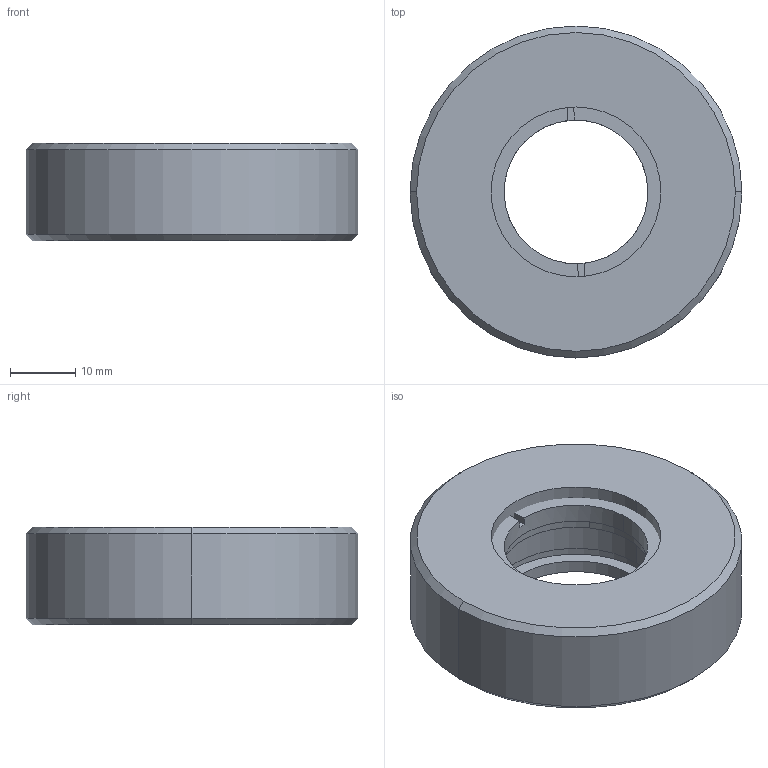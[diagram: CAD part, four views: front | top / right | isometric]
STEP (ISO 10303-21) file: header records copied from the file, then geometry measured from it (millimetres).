
FILE_DESCRIPTION (( 'STEP AP203' ), '1' );
FILE_NAME ('ACOA25.4-2.STEP', '2022-07-22T08:49:36', ( '' ), ( '' ), 'SwSTEP 2.0', 'SolidWorks 2021', '' );
FILE_SCHEMA (( 'CONFIG_CONTROL_DESIGN' ));
Length unit declared in the file: millimetre
Products named in the file (1): ACOA25.4-2
Bounding box: 50.8 x 50.8 x 15 mm (x, y, z)
Volume: 23135.1 mm3; surface area: 7998.8 mm2
Topology: 3 solids, 3 shells, 213 faces, 581 edges, 385 vertices
Faces by surface type: plane 188, cylinder 16, cone 9
Entity records: 6717 total; most frequent: CARTESIAN_POINT 1192, ORIENTED_EDGE 1162, DIRECTION 1054, EDGE_CURVE 581, LINE 528, VECTOR 528, VERTEX_POINT 385, AXIS2_PLACEMENT_3D 263
